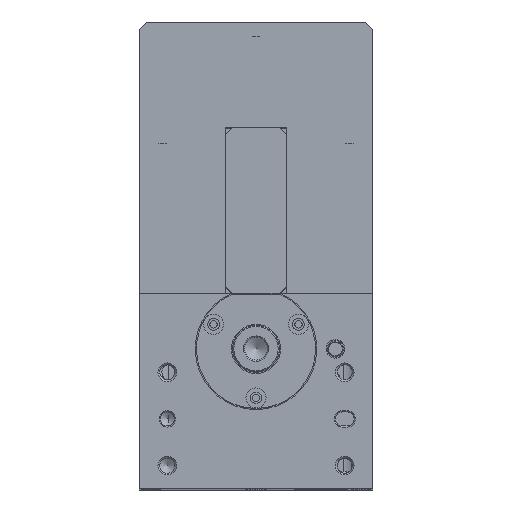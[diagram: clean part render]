
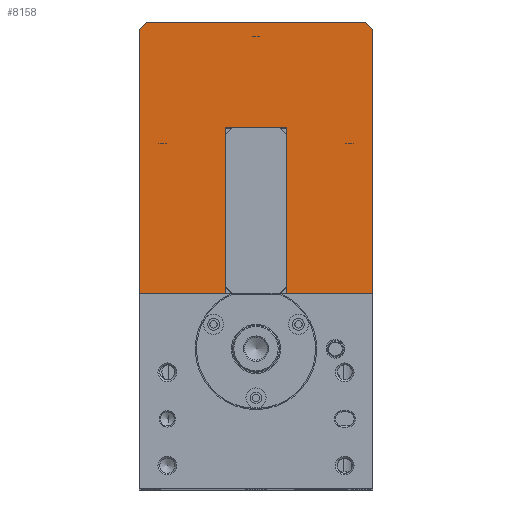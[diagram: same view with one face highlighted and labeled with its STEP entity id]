
A CAD part, top view. The second image highlights one B-rep face of the part: STEP entity #8158.
In plain terms, the highlighted planar face has unit normal (0, 0, 1).
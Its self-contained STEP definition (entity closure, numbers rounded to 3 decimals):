
#7182=CARTESIAN_POINT('',(18.45,-58.11,0.0));
#7183=VERTEX_POINT('',#7182);
#7190=CARTESIAN_POINT('',(0.,-58.11,0.0));
#7191=VERTEX_POINT('',#7190);
#7192=CARTESIAN_POINT('',(18.45,-58.11,0.0));
#7193=DIRECTION('',(-1.0,0.0,0.0));
#7194=VECTOR('',#7193,18.45);
#7195=LINE('',#7192,#7194);
#7196=EDGE_CURVE('',#7183,#7191,#7195,.T.);
#7262=CARTESIAN_POINT('',(31.55,-58.11,0.0));
#7263=VERTEX_POINT('',#7262);
#7270=CARTESIAN_POINT('',(31.55,-22.61,0.0));
#7271=VERTEX_POINT('',#7270);
#7272=CARTESIAN_POINT('',(31.55,-22.61,0.0));
#7273=DIRECTION('',(0.0,-1.0,0.0));
#7274=VECTOR('',#7273,35.5);
#7275=LINE('',#7272,#7274);
#7276=EDGE_CURVE('',#7271,#7263,#7275,.T.);
#7795=CARTESIAN_POINT('',(18.45,-22.61,0.0));
#7796=VERTEX_POINT('',#7795);
#7797=CARTESIAN_POINT('',(18.45,-22.61,0.0));
#7798=DIRECTION('',(1.0,0.0,0.0));
#7799=VECTOR('',#7798,13.1);
#7800=LINE('',#7797,#7799);
#7801=EDGE_CURVE('',#7796,#7271,#7800,.T.);
#7845=CARTESIAN_POINT('',(18.45,-58.11,0.0));
#7846=DIRECTION('',(0.0,1.0,0.0));
#7847=VECTOR('',#7846,35.5);
#7848=LINE('',#7845,#7847);
#7849=EDGE_CURVE('',#7183,#7796,#7848,.T.);
#8089=CARTESIAN_POINT('',(0.,-1.5,0.0));
#8090=VERTEX_POINT('',#8089);
#8099=CARTESIAN_POINT('',(0.,-58.11,0.0));
#8100=DIRECTION('',(0.0,1.0,0.0));
#8101=VECTOR('',#8100,56.61);
#8102=LINE('',#8099,#8101);
#8103=EDGE_CURVE('',#7191,#8090,#8102,.T.);
#8108=CARTESIAN_POINT('',(25.0,-21.505,0.0));
#8109=DIRECTION('',(0.0,0.0,1.0));
#8110=DIRECTION('',(1.0,0.0,0.0));
#8111=AXIS2_PLACEMENT_3D('',#8108,#8109,#8110);
#8112=PLANE('',#8111);
#8113=ORIENTED_EDGE('',*,*,#7276,.T.);
#8114=CARTESIAN_POINT('',(50.0,-58.11,0.0));
#8115=VERTEX_POINT('',#8114);
#8116=CARTESIAN_POINT('',(50.0,-58.11,0.0));
#8117=DIRECTION('',(-1.0,0.0,0.0));
#8118=VECTOR('',#8117,18.45);
#8119=LINE('',#8116,#8118);
#8120=EDGE_CURVE('',#8115,#7263,#8119,.T.);
#8121=ORIENTED_EDGE('',*,*,#8120,.F.);
#8122=CARTESIAN_POINT('',(50.0,-1.5,0.0));
#8123=VERTEX_POINT('',#8122);
#8124=CARTESIAN_POINT('',(50.0,-1.5,0.0));
#8125=DIRECTION('',(0.0,-1.0,0.0));
#8126=VECTOR('',#8125,56.61);
#8127=LINE('',#8124,#8126);
#8128=EDGE_CURVE('',#8123,#8115,#8127,.T.);
#8129=ORIENTED_EDGE('',*,*,#8128,.F.);
#8130=CARTESIAN_POINT('',(48.5,0.0,0.0));
#8131=VERTEX_POINT('',#8130);
#8132=CARTESIAN_POINT('',(48.5,0.0,0.0));
#8133=DIRECTION('',(0.707,-0.707,0.0));
#8134=VECTOR('',#8133,2.121);
#8135=LINE('',#8132,#8134);
#8136=EDGE_CURVE('',#8131,#8123,#8135,.T.);
#8137=ORIENTED_EDGE('',*,*,#8136,.F.);
#8138=CARTESIAN_POINT('',(1.5,0.0,0.0));
#8139=VERTEX_POINT('',#8138);
#8140=CARTESIAN_POINT('',(1.5,0.0,0.0));
#8141=DIRECTION('',(1.0,0.0,0.0));
#8142=VECTOR('',#8141,47.);
#8143=LINE('',#8140,#8142);
#8144=EDGE_CURVE('',#8139,#8131,#8143,.T.);
#8145=ORIENTED_EDGE('',*,*,#8144,.F.);
#8146=CARTESIAN_POINT('',(0.,-1.5,0.0));
#8147=DIRECTION('',(0.707,0.707,0.0));
#8148=VECTOR('',#8147,2.121);
#8149=LINE('',#8146,#8148);
#8150=EDGE_CURVE('',#8090,#8139,#8149,.T.);
#8151=ORIENTED_EDGE('',*,*,#8150,.F.);
#8152=ORIENTED_EDGE('',*,*,#8103,.F.);
#8153=ORIENTED_EDGE('',*,*,#7196,.F.);
#8154=ORIENTED_EDGE('',*,*,#7849,.T.);
#8155=ORIENTED_EDGE('',*,*,#7801,.T.);
#8156=EDGE_LOOP('',(#8113,#8121,#8129,#8137,#8145,#8151,#8152,#8153,#8154,#8155));
#8157=FACE_OUTER_BOUND('',#8156,.T.);
#8158=ADVANCED_FACE('',(#8157),#8112,.T.);
